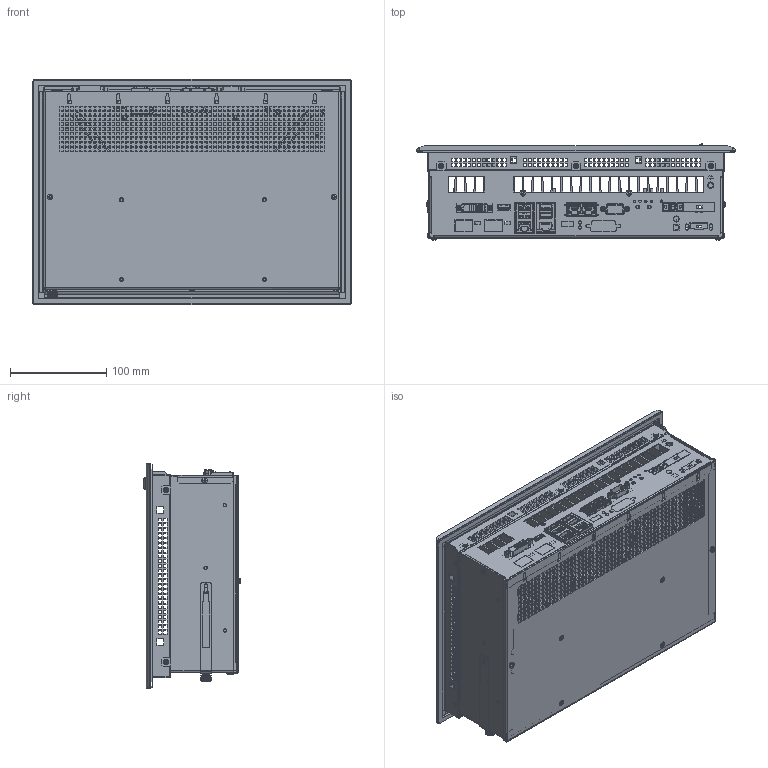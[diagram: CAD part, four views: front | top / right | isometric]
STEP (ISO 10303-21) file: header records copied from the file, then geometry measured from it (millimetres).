
FILE_DESCRIPTION((''),'2;1');
FILE_NAME('C6P34-Panel_121W_RES_S0_ASM','2019-01-31T',('rafrev'),(''),'PRO/ENGINEER BY PARAMETRIC TECHNOLOGY CORPORATION, 2013410','PRO/ENGINEER BY PARAMETRIC TECHNOLOGY CORPORATION, 2013410','');
FILE_SCHEMA(('AUTOMOTIVE_DESIGN { 1 0 10303 214 1 1 1 1 }'));
Products named in the file (1): C6P34-Panel_121W_RES_S0_ASM
Bounding box: 331 x 100.77 x 234 mm (x, y, z)
Surface area: 940968.5 mm2 (no closed solid volume)
Topology: 0 solids, 432 shells, 6098 faces, 23815 edges, 17949 vertices
Faces by surface type: plane 5313, cylinder 543, cone 187, torus 31, bspline 15, sphere 6, extrusion 3
Entity records: 291591 total; most frequent: CARTESIAN_POINT 59087, ORIENTED_EDGE 38978, DIRECTION 37415, EDGE_CURVE 23803, VECTOR 19773, LINE 19770, VERTEX_POINT 17949, AXIS2_PLACEMENT_3D 8821
